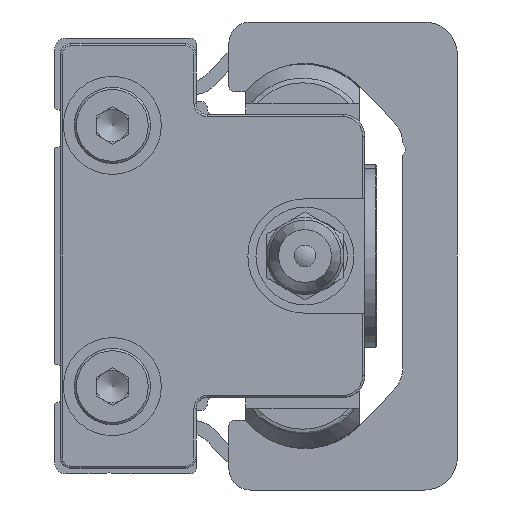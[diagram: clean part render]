
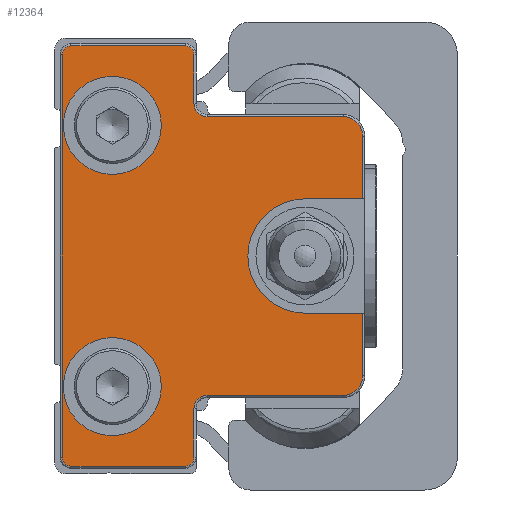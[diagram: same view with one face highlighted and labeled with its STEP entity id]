
A CAD part, left-side view. The second image highlights one B-rep face of the part: STEP entity #12364.
In plain terms, the highlighted planar face has unit normal (-1, 0, 0) as drawn and (0, 0, 1) by its records, which use the part's own axes.
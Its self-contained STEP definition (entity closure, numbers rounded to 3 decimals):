
#645=PLANE('',#13685);
#1501=LINE('',#21185,#2422);
#1502=LINE('',#21188,#2423);
#1503=LINE('',#21192,#2424);
#1504=LINE('',#21196,#2425);
#1505=LINE('',#21200,#2426);
#1506=LINE('',#21204,#2427);
#1507=LINE('',#21208,#2428);
#1508=LINE('',#21212,#2429);
#1509=LINE('',#21216,#2430);
#1510=LINE('',#21220,#2431);
#1511=LINE('',#21222,#2432);
#2422=VECTOR('',#17002,1000.);
#2423=VECTOR('',#17003,1000.);
#2424=VECTOR('',#17006,1000.);
#2425=VECTOR('',#17009,1000.);
#2426=VECTOR('',#17012,1000.);
#2427=VECTOR('',#17015,1000.);
#2428=VECTOR('',#17018,1000.);
#2429=VECTOR('',#17021,1000.);
#2430=VECTOR('',#17024,1000.);
#2431=VECTOR('',#17027,1000.);
#2432=VECTOR('',#17028,1000.);
#5392=ORIENTED_EDGE('',*,*,#7463,.F.);
#5393=ORIENTED_EDGE('',*,*,#7464,.F.);
#5394=ORIENTED_EDGE('',*,*,#7465,.F.);
#5395=ORIENTED_EDGE('',*,*,#7466,.T.);
#5396=ORIENTED_EDGE('',*,*,#7467,.T.);
#5397=ORIENTED_EDGE('',*,*,#7468,.T.);
#5398=ORIENTED_EDGE('',*,*,#7469,.T.);
#5399=ORIENTED_EDGE('',*,*,#7470,.T.);
#5400=ORIENTED_EDGE('',*,*,#7471,.T.);
#5401=ORIENTED_EDGE('',*,*,#7472,.T.);
#5402=ORIENTED_EDGE('',*,*,#7473,.T.);
#5403=ORIENTED_EDGE('',*,*,#7474,.T.);
#5404=ORIENTED_EDGE('',*,*,#7475,.T.);
#5405=ORIENTED_EDGE('',*,*,#7476,.T.);
#5406=ORIENTED_EDGE('',*,*,#7477,.T.);
#5407=ORIENTED_EDGE('',*,*,#7478,.T.);
#5408=ORIENTED_EDGE('',*,*,#7479,.T.);
#5409=ORIENTED_EDGE('',*,*,#7480,.T.);
#5410=ORIENTED_EDGE('',*,*,#7481,.T.);
#5411=ORIENTED_EDGE('',*,*,#7482,.T.);
#5412=ORIENTED_EDGE('',*,*,#7483,.F.);
#5413=ORIENTED_EDGE('',*,*,#7484,.F.);
#7463=EDGE_CURVE('',#8758,#8758,#9464,.T.);
#7464=EDGE_CURVE('',#8759,#8759,#9465,.T.);
#7465=EDGE_CURVE('',#8760,#8761,#1501,.T.);
#7466=EDGE_CURVE('',#8760,#8762,#1502,.T.);
#7467=EDGE_CURVE('',#8762,#8763,#9466,.T.);
#7468=EDGE_CURVE('',#8763,#8764,#1503,.T.);
#7469=EDGE_CURVE('',#8764,#8765,#9467,.F.);
#7470=EDGE_CURVE('',#8765,#8766,#1504,.T.);
#7471=EDGE_CURVE('',#8766,#8767,#9468,.T.);
#7472=EDGE_CURVE('',#8767,#8768,#1505,.T.);
#7473=EDGE_CURVE('',#8768,#8769,#9469,.T.);
#7474=EDGE_CURVE('',#8769,#8770,#1506,.T.);
#7475=EDGE_CURVE('',#8770,#8771,#9470,.T.);
#7476=EDGE_CURVE('',#8771,#8772,#1507,.T.);
#7477=EDGE_CURVE('',#8772,#8773,#9471,.T.);
#7478=EDGE_CURVE('',#8773,#8774,#1508,.T.);
#7479=EDGE_CURVE('',#8774,#8775,#9472,.F.);
#7480=EDGE_CURVE('',#8775,#8776,#1509,.T.);
#7481=EDGE_CURVE('',#8776,#8777,#9473,.T.);
#7482=EDGE_CURVE('',#8777,#8778,#1510,.T.);
#7483=EDGE_CURVE('',#8779,#8778,#1511,.T.);
#7484=EDGE_CURVE('',#8761,#8779,#9474,.T.);
#8758=VERTEX_POINT('',#21182);
#8759=VERTEX_POINT('',#21184);
#8760=VERTEX_POINT('',#21186);
#8761=VERTEX_POINT('',#21187);
#8762=VERTEX_POINT('',#21189);
#8763=VERTEX_POINT('',#21191);
#8764=VERTEX_POINT('',#21193);
#8765=VERTEX_POINT('',#21195);
#8766=VERTEX_POINT('',#21197);
#8767=VERTEX_POINT('',#21199);
#8768=VERTEX_POINT('',#21201);
#8769=VERTEX_POINT('',#21203);
#8770=VERTEX_POINT('',#21205);
#8771=VERTEX_POINT('',#21207);
#8772=VERTEX_POINT('',#21209);
#8773=VERTEX_POINT('',#21211);
#8774=VERTEX_POINT('',#21213);
#8775=VERTEX_POINT('',#21215);
#8776=VERTEX_POINT('',#21217);
#8777=VERTEX_POINT('',#21219);
#8778=VERTEX_POINT('',#21221);
#8779=VERTEX_POINT('',#21223);
#9464=CIRCLE('',#13686,4.5);
#9465=CIRCLE('',#13687,4.5);
#9466=CIRCLE('',#13688,1.8);
#9467=CIRCLE('',#13689,1.2);
#9468=CIRCLE('',#13690,0.8);
#9469=CIRCLE('',#13691,0.8);
#9470=CIRCLE('',#13692,0.8);
#9471=CIRCLE('',#13693,0.8);
#9472=CIRCLE('',#13694,1.2);
#9473=CIRCLE('',#13695,1.8);
#9474=CIRCLE('',#13696,5.25);
#10362=EDGE_LOOP('',(#5392));
#10363=EDGE_LOOP('',(#5393));
#10364=EDGE_LOOP('',(#5394,#5395,#5396,#5397,#5398,#5399,#5400,#5401,#5402,
#5403,#5404,#5405,#5406,#5407,#5408,#5409,#5410,#5411,#5412,#5413));
#11325=FACE_BOUND('',#10362,.T.);
#11326=FACE_BOUND('',#10363,.T.);
#11327=FACE_BOUND('',#10364,.T.);
#12364=ADVANCED_FACE('',(#11325,#11326,#11327),#645,.T.);
#13685=AXIS2_PLACEMENT_3D('',#21180,#16996,#16997);
#13686=AXIS2_PLACEMENT_3D('',#21181,#16998,#16999);
#13687=AXIS2_PLACEMENT_3D('',#21183,#17000,#17001);
#13688=AXIS2_PLACEMENT_3D('',#21190,#17004,#17005);
#13689=AXIS2_PLACEMENT_3D('',#21194,#17007,#17008);
#13690=AXIS2_PLACEMENT_3D('',#21198,#17010,#17011);
#13691=AXIS2_PLACEMENT_3D('',#21202,#17013,#17014);
#13692=AXIS2_PLACEMENT_3D('',#21206,#17016,#17017);
#13693=AXIS2_PLACEMENT_3D('',#21210,#17019,#17020);
#13694=AXIS2_PLACEMENT_3D('',#21214,#17022,#17023);
#13695=AXIS2_PLACEMENT_3D('',#21218,#17025,#17026);
#13696=AXIS2_PLACEMENT_3D('',#21224,#17029,#17030);
#16996=DIRECTION('',(0.,0.,1.));
#16997=DIRECTION('',(1.,0.,0.));
#16998=DIRECTION('',(0.,0.,1.));
#16999=DIRECTION('',(1.,0.,0.));
#17000=DIRECTION('',(0.,0.,1.));
#17001=DIRECTION('',(1.,0.,0.));
#17002=DIRECTION('',(0.,1.,0.));
#17003=DIRECTION('',(1.,0.,0.));
#17004=DIRECTION('',(0.,0.,1.));
#17005=DIRECTION('',(1.,0.,0.));
#17006=DIRECTION('',(0.,1.,0.));
#17007=DIRECTION('',(0.,0.,1.));
#17008=DIRECTION('',(1.,0.,0.));
#17009=DIRECTION('',(1.,0.,0.));
#17010=DIRECTION('',(0.,0.,1.));
#17011=DIRECTION('',(1.,0.,0.));
#17012=DIRECTION('',(0.,1.,0.));
#17013=DIRECTION('',(0.,0.,1.));
#17014=DIRECTION('',(1.,0.,0.));
#17015=DIRECTION('',(-1.,0.,0.));
#17016=DIRECTION('',(0.,0.,1.));
#17017=DIRECTION('',(1.,0.,0.));
#17018=DIRECTION('',(0.,-1.,0.));
#17019=DIRECTION('',(0.,0.,1.));
#17020=DIRECTION('',(1.,0.,0.));
#17021=DIRECTION('',(1.,0.,0.));
#17022=DIRECTION('',(0.,0.,1.));
#17023=DIRECTION('',(1.,0.,0.));
#17024=DIRECTION('',(0.,-1.,0.));
#17025=DIRECTION('',(0.,0.,1.));
#17026=DIRECTION('',(1.,0.,0.));
#17027=DIRECTION('',(1.,0.,0.));
#17028=DIRECTION('',(0.,-1.,0.));
#17029=DIRECTION('',(0.,0.,1.));
#17030=DIRECTION('',(1.,0.,0.));
#21180=CARTESIAN_POINT('',(-18.5,-11.5,5.4));
#21181=CARTESIAN_POINT('',(-12.,-4.8,5.4));
#21182=CARTESIAN_POINT('',(-7.5,-4.8,5.4));
#21183=CARTESIAN_POINT('',(12.,-4.8,5.4));
#21184=CARTESIAN_POINT('',(16.5,-4.8,5.4));
#21185=CARTESIAN_POINT('',(5.25,-28.5,5.4));
#21186=CARTESIAN_POINT('',(5.25,-27.8,5.4));
#21187=CARTESIAN_POINT('',(5.25,-22.5,5.4));
#21188=CARTESIAN_POINT('',(11.,-27.8,5.4));
#21189=CARTESIAN_POINT('',(11.,-27.8,5.4));
#21190=CARTESIAN_POINT('',(11.,-26.,5.4));
#21191=CARTESIAN_POINT('',(12.8,-26.,5.4));
#21192=CARTESIAN_POINT('',(12.8,-13.5,5.4));
#21193=CARTESIAN_POINT('',(12.8,-13.5,5.4));
#21194=CARTESIAN_POINT('',(14.,-13.5,5.4));
#21195=CARTESIAN_POINT('',(14.,-12.3,5.4));
#21196=CARTESIAN_POINT('',(18.5,-12.3,5.4));
#21197=CARTESIAN_POINT('',(18.5,-12.3,5.4));
#21198=CARTESIAN_POINT('',(18.5,-11.5,5.4));
#21199=CARTESIAN_POINT('',(19.3,-11.5,5.4));
#21200=CARTESIAN_POINT('',(19.3,-1.,5.4));
#21201=CARTESIAN_POINT('',(19.3,-1.,5.4));
#21202=CARTESIAN_POINT('',(18.5,-1.,5.4));
#21203=CARTESIAN_POINT('',(18.5,-0.2,5.4));
#21204=CARTESIAN_POINT('',(-18.5,-0.2,5.4));
#21205=CARTESIAN_POINT('',(-18.5,-0.2,5.4));
#21206=CARTESIAN_POINT('',(-18.5,-1.,5.4));
#21207=CARTESIAN_POINT('',(-19.3,-1.,5.4));
#21208=CARTESIAN_POINT('',(-19.3,-11.5,5.4));
#21209=CARTESIAN_POINT('',(-19.3,-11.5,5.4));
#21210=CARTESIAN_POINT('',(-18.5,-11.5,5.4));
#21211=CARTESIAN_POINT('',(-18.5,-12.3,5.4));
#21212=CARTESIAN_POINT('',(-14.,-12.3,5.4));
#21213=CARTESIAN_POINT('',(-14.,-12.3,5.4));
#21214=CARTESIAN_POINT('',(-14.,-13.5,5.4));
#21215=CARTESIAN_POINT('',(-12.8,-13.5,5.4));
#21216=CARTESIAN_POINT('',(-12.8,-26.,5.4));
#21217=CARTESIAN_POINT('',(-12.8,-26.,5.4));
#21218=CARTESIAN_POINT('',(-11.,-26.,5.4));
#21219=CARTESIAN_POINT('',(-11.,-27.8,5.4));
#21220=CARTESIAN_POINT('',(-5.25,-27.8,5.4));
#21221=CARTESIAN_POINT('',(-5.25,-27.8,5.4));
#21222=CARTESIAN_POINT('',(-5.25,-22.5,5.4));
#21223=CARTESIAN_POINT('',(-5.25,-22.5,5.4));
#21224=CARTESIAN_POINT('',(0.,-22.5,5.4));
